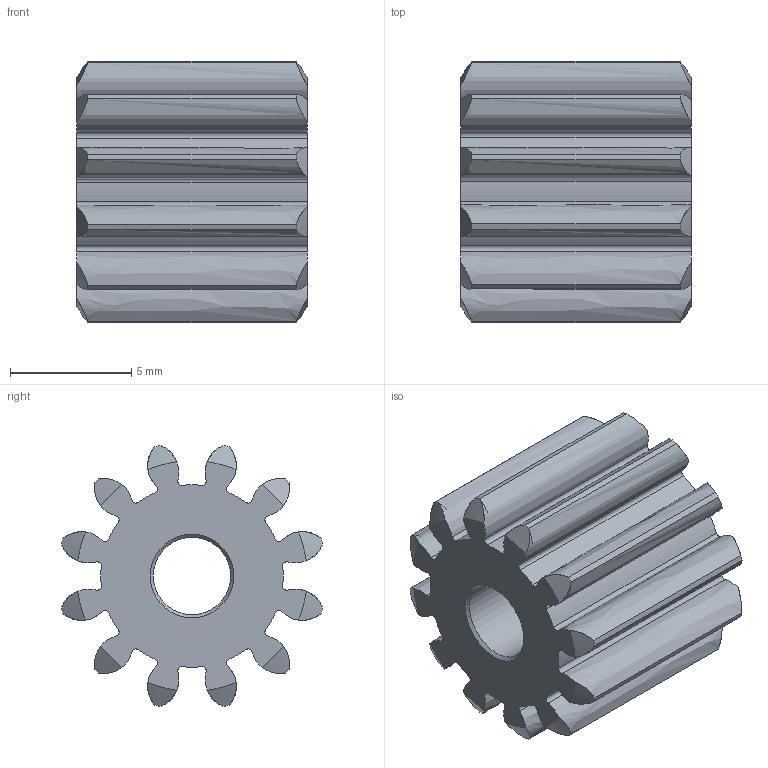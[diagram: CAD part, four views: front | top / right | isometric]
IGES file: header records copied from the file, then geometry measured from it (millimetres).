
Global section: file name: No Iges File Name specified; native system: AutoDesk Inventor R6.0; preprocessor: AutoDesk Inventor Iges Exporter R6.0; author: No Author specified; organization: No Organization specified; date: 20080103.185931; units: inch
Bounding box: 9.53 x 10.79 x 10.79 mm (x, y, z)
Surface area: 800.7 mm2 (no closed solid volume)
Topology: 0 solids, 0 shells, 101 faces, 587 edges, 584 vertices
Faces by surface type: revolution 99, plane 2
